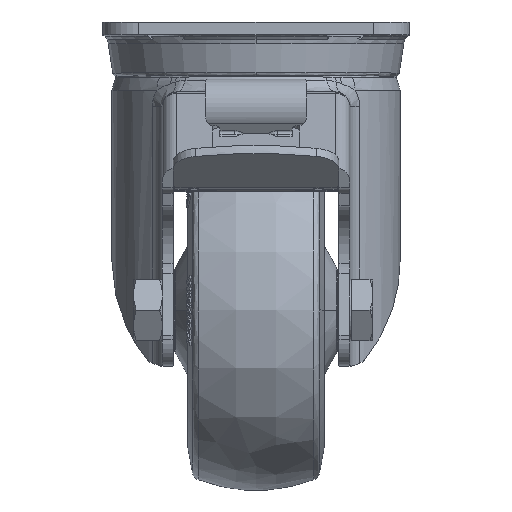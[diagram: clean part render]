
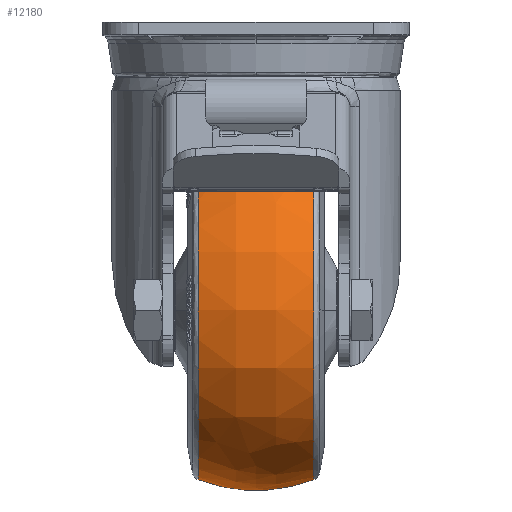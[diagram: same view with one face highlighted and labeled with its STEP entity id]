
A CAD part, top view. The second image highlights one B-rep face of the part: STEP entity #12180.
In plain terms, the highlighted free-form (B-spline) face has degree [3, 3] with [4, 4] control points.
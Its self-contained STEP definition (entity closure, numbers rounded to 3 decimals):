
#558 = ORIENTED_EDGE ( 'NONE', *, *, #77135, .T. ) ;
#560 = ORIENTED_EDGE ( 'NONE', *, *, #77144, .T. ) ;
#562 = ORIENTED_EDGE ( 'NONE', *, *, #77140, .T. ) ;
#564 = ORIENTED_EDGE ( 'NONE', *, *, #77143, .F. ) ;
#12180 = ADVANCED_FACE ( 'NONE', ( #49869 ), #80780, .T. ) ;
#20367 = CARTESIAN_POINT ( 'NONE',  ( 16.087, 47.026, 0. ) ) ;
#20371 = CARTESIAN_POINT ( 'NONE',  ( -16.087, 47.026, 0. ) ) ;
#20374 = CARTESIAN_POINT ( 'NONE',  ( -16.087, -47.026, 0. ) ) ;
#35577 = EDGE_LOOP ( 'NONE', ( #560, #558, #562, #564 ) ) ;
#48246 = CARTESIAN_POINT ( 'NONE',  ( 16.087, 47.026, 94.052 ) ) ;
#48255 = CARTESIAN_POINT ( 'NONE',  ( 16.087, -47.026, 94.052 ) ) ;
#48265 = CARTESIAN_POINT ( 'NONE',  ( 16.087, 47.026, 0. ) ) ;
#48267 = CARTESIAN_POINT ( 'NONE',  ( 16.087, -47.026, 0. ) ) ;
#48268 = CARTESIAN_POINT ( 'NONE',  ( 5.61, 51.037, 0. ) ) ;
#48269 = CARTESIAN_POINT ( 'NONE',  ( 5.61, 51.037, 102.074 ) ) ;
#48270 = CARTESIAN_POINT ( 'NONE',  ( 5.61, -51.037, 102.074 ) ) ;
#48271 = CARTESIAN_POINT ( 'NONE',  ( 5.61, -51.037, 0. ) ) ;
#48272 = CARTESIAN_POINT ( 'NONE',  ( -5.61, 51.037, 0. ) ) ;
#48273 = CARTESIAN_POINT ( 'NONE',  ( -5.61, 51.037, 102.074 ) ) ;
#48274 = CARTESIAN_POINT ( 'NONE',  ( -5.61, -51.037, 102.074 ) ) ;
#48275 = CARTESIAN_POINT ( 'NONE',  ( -5.61, -51.037, 0. ) ) ;
#48276 = CARTESIAN_POINT ( 'NONE',  ( -16.087, 47.026, 0. ) ) ;
#48277 = CARTESIAN_POINT ( 'NONE',  ( -16.087, 47.026, 94.052 ) ) ;
#48278 = CARTESIAN_POINT ( 'NONE',  ( -16.087, -47.026, 94.052 ) ) ;
#48279 = CARTESIAN_POINT ( 'NONE',  ( -16.087, -47.026, 0. ) ) ;
#49869 = FACE_OUTER_BOUND ( 'NONE', #35577, .T. ) ;
#50811 = CARTESIAN_POINT ( 'NONE',  ( 16.087, -47.026, 0. ) ) ;
#77135 = EDGE_CURVE ( 'NONE', #129534, #129536, #109614, .T. ) ;
#77140 = EDGE_CURVE ( 'NONE', #129536, #129538, #109619, .T. ) ;
#77143 = EDGE_CURVE ( 'NONE', #129533, #129538, #109622, .T. ) ;
#77144 = EDGE_CURVE ( 'NONE', #129533, #129534, #109625, .T. ) ;
#80780 =( BOUNDED_SURFACE ( )  B_SPLINE_SURFACE ( 3, 3, ( 
 ( #48265, #48246, #48255, #48267 ),
 ( #48268, #48269, #48270, #48271 ),
 ( #48272, #48273, #48274, #48275 ),
 ( #48276, #48277, #48278, #48279 ) ),
 .UNSPECIFIED., .F., .F., .F. ) 
 B_SPLINE_SURFACE_WITH_KNOTS ( ( 4, 4 ),
 ( 4, 4 ),
 ( 0., 1. ),
 ( 0., 1. ),
 .UNSPECIFIED. ) 
 GEOMETRIC_REPRESENTATION_ITEM ( )  RATIONAL_B_SPLINE_SURFACE ( (
 ( 1., 0.333, 0.333, 1.),
 ( 0.956, 0.319, 0.319, 0.956),
 ( 0.956, 0.319, 0.319, 0.956),
 ( 1., 0.333, 0.333, 1.) ) ) 
 REPRESENTATION_ITEM ( '' )  SURFACE ( )  );
#89981 = CARTESIAN_POINT ( 'NONE',  ( 0., 5., 0. ) ) ;
#89997 = DIRECTION ( 'NONE',  ( 0., 0., 1. ) ) ;
#89999 = DIRECTION ( 'NONE',  ( 0., 1., 0. ) ) ;
#90007 = CARTESIAN_POINT ( 'NONE',  ( -16.087, 0., 0. ) ) ;
#90008 = CARTESIAN_POINT ( 'NONE',  ( 0., -5., 0. ) ) ;
#90010 = DIRECTION ( 'NONE',  ( 1., 0., 0. ) ) ;
#90012 = DIRECTION ( 'NONE',  ( 0., -1., 0. ) ) ;
#90023 = DIRECTION ( 'NONE',  ( 0., 0., -1. ) ) ;
#90025 = DIRECTION ( 'NONE',  ( 0., -1., 0. ) ) ;
#90027 = CARTESIAN_POINT ( 'NONE',  ( 16.087, 0., 0. ) ) ;
#90029 = DIRECTION ( 'NONE',  ( -1., 0., 0. ) ) ;
#90031 = DIRECTION ( 'NONE',  ( 0., -1., 0. ) ) ;
#108928 = AXIS2_PLACEMENT_3D ( 'NONE', #89981, #89997, #89999 ) ;
#108929 = AXIS2_PLACEMENT_3D ( 'NONE', #90007, #90010, #90012 ) ;
#108930 = AXIS2_PLACEMENT_3D ( 'NONE', #90027, #90029, #90031 ) ;
#108932 = AXIS2_PLACEMENT_3D ( 'NONE', #90008, #90023, #90025 ) ;
#109614 = CIRCLE ( 'NONE', #108928, 45. ) ;
#109619 = CIRCLE ( 'NONE', #108929, 47.026 ) ;
#109622 = CIRCLE ( 'NONE', #108932, 45. ) ;
#109625 = CIRCLE ( 'NONE', #108930, 47.026 ) ;
#129533 = VERTEX_POINT ( 'NONE', #50811 ) ;
#129534 = VERTEX_POINT ( 'NONE', #20367 ) ;
#129536 = VERTEX_POINT ( 'NONE', #20371 ) ;
#129538 = VERTEX_POINT ( 'NONE', #20374 ) ;
